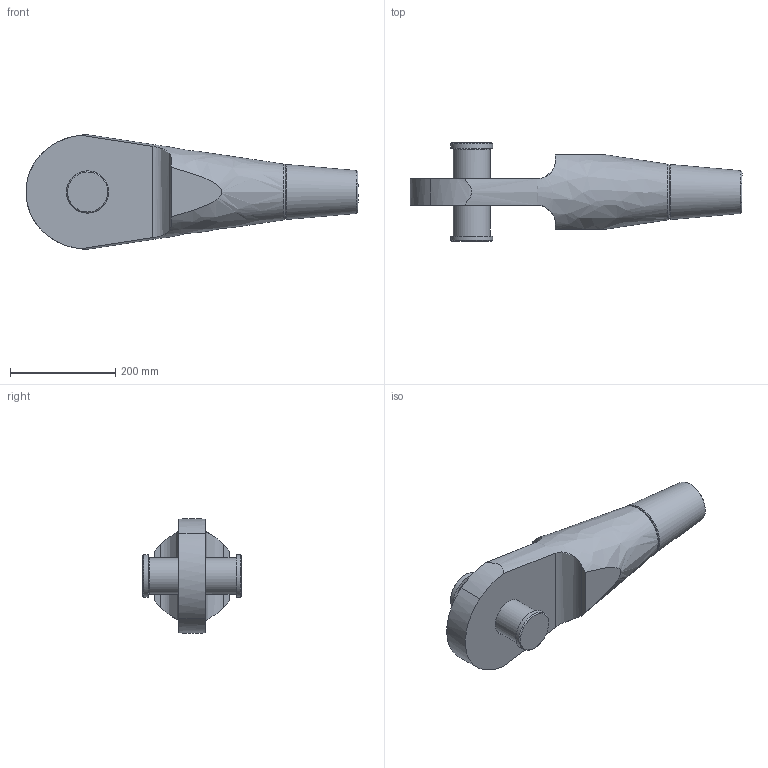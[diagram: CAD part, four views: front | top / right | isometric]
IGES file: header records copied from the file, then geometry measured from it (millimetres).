
Global section: file name: 520-070-OES; native system: Autodesk Inventor 2016; preprocessor: unknown; author: Administrator; date: 20200626.103806; units: centimetre
Bounding box: 629.89 x 187.3 x 217.09 mm (x, y, z)
Volume: 6830176.5 mm3; surface area: 364259.7 mm2
Topology: 2 solids, 4 shells, 49 faces, 120 edges, 82 vertices
Faces by surface type: bspline 49
